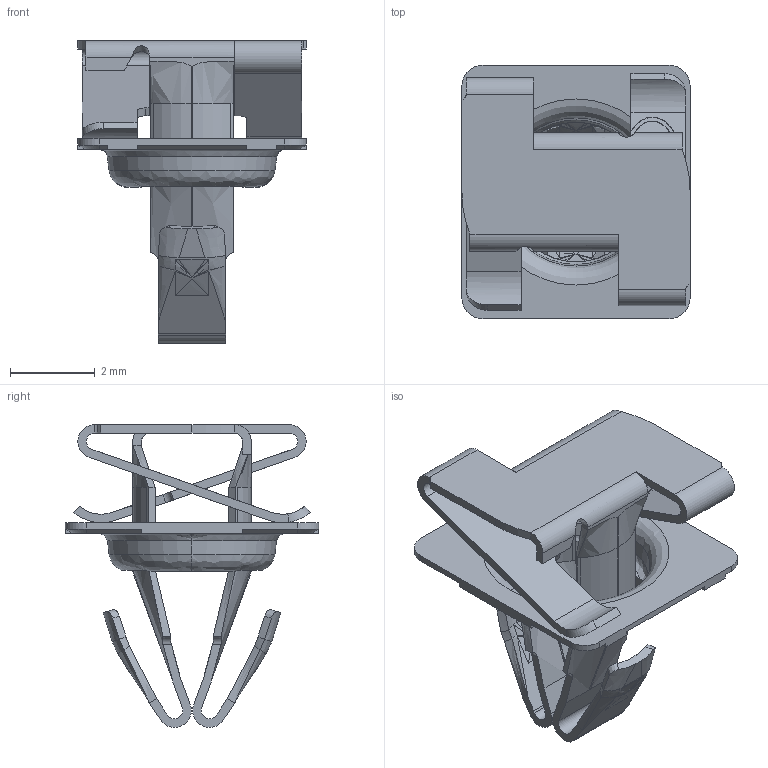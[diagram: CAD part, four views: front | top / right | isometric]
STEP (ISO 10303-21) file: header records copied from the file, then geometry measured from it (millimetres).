
FILE_DESCRIPTION(('CAx-IF Rec.Pracs.---Model Styling and Organization---1.2---2011-12-15','CAx-IF Rec.Pracs.---Geometric and Assembly Validation Properties---4.1---2014-06-16','CAx-IF Rec.Pracs.---PMI Polyline Presentation---2.0---2013-05-24'),'2;1');
FILE_NAME('01ZY21CY0M.stp','2020-02-21T13:42:00+01:00',(''),(''),'STEP Interface 4.3 by CT CoreTechnologie','3D_Evolution4.3 by CT CoreTechnologie','');
FILE_SCHEMA(('AP203_CONFIGURATION_CONTROLLED_3D_DESIGN_OF_MECHANICAL_PARTS_AND_ASSEMBLIES_MIM_LF'));
Length unit declared in the file: millimetre
Products named in the file (3): 01ZY21CY0M; 01Z-21A-0D; 01Z-201-02
Assembly tree (2 placements, depth 2):
  01ZY21CY0M
    01Z-21A-0D
    01Z-201-02
Bounding box: 5.4 x 6 x 7.16 mm (x, y, z)
Volume: 23.3 mm3; surface area: 233.7 mm2
Topology: 2 solids, 2 shells, 347 faces, 906 edges, 524 vertices
Faces by surface type: plane 153, bspline 134, cylinder 60
Entity records: 69566 total; most frequent: PROPERTY_DEFINITION 9625, CARTESIAN_POINT 5216, SHAPE_REPRESENTATION 4814, REPRESENTATION 4814, GENERAL_PROPERTY 4814, PROPERTY_DEFINITION_REPRESENTATION 4814, GENERAL_PROPERTY_ASSOCIATION 4814, SHAPE_DEFINITION_REPRESENTATION 4814
